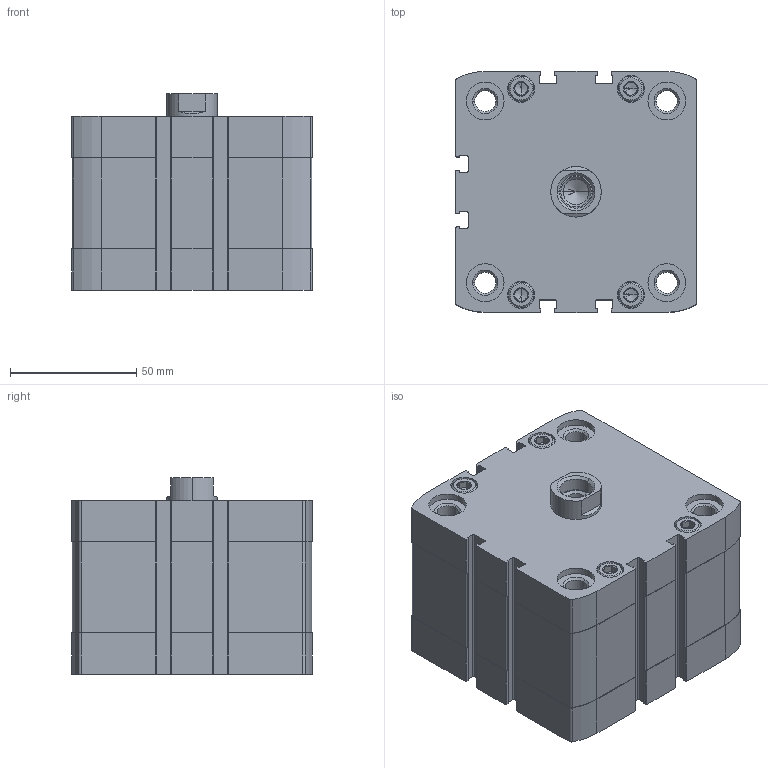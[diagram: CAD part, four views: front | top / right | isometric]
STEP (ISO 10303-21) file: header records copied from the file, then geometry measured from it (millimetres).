
FILE_DESCRIPTION (( 'STEP AP203' ), '1' );
FILE_NAME ('CCN80-15F.STEP', '2017-04-05T18:37:17', ( '' ), ( '' ), 'SwSTEP 2.0', 'SolidWorks 2016', '' );
FILE_SCHEMA (( 'CONFIG_CONTROL_DESIGN' ));
Length unit declared in the file: millimetre
Products named in the file (3): CCN-15_(KS); CCN80-15F; CCN-15---(Z)
Assembly tree (2 placements, depth 2):
  CCN80-15F
    CCN-15---(Z)
    CCN-15_(KS)
Bounding box: 95.5 x 95.5 x 77.9 mm (x, y, z)
Volume: 517104.9 mm3; surface area: 97908.7 mm2
Topology: 2 solids, 2 shells, 487 faces, 1232 edges, 779 vertices
Faces by surface type: plane 227, cylinder 186, cone 74
Entity records: 15281 total; most frequent: CARTESIAN_POINT 3035, DIRECTION 2616, ORIENTED_EDGE 2428, EDGE_CURVE 1214, AXIS2_PLACEMENT_3D 976, VERTEX_POINT 779, LINE 664, VECTOR 664
